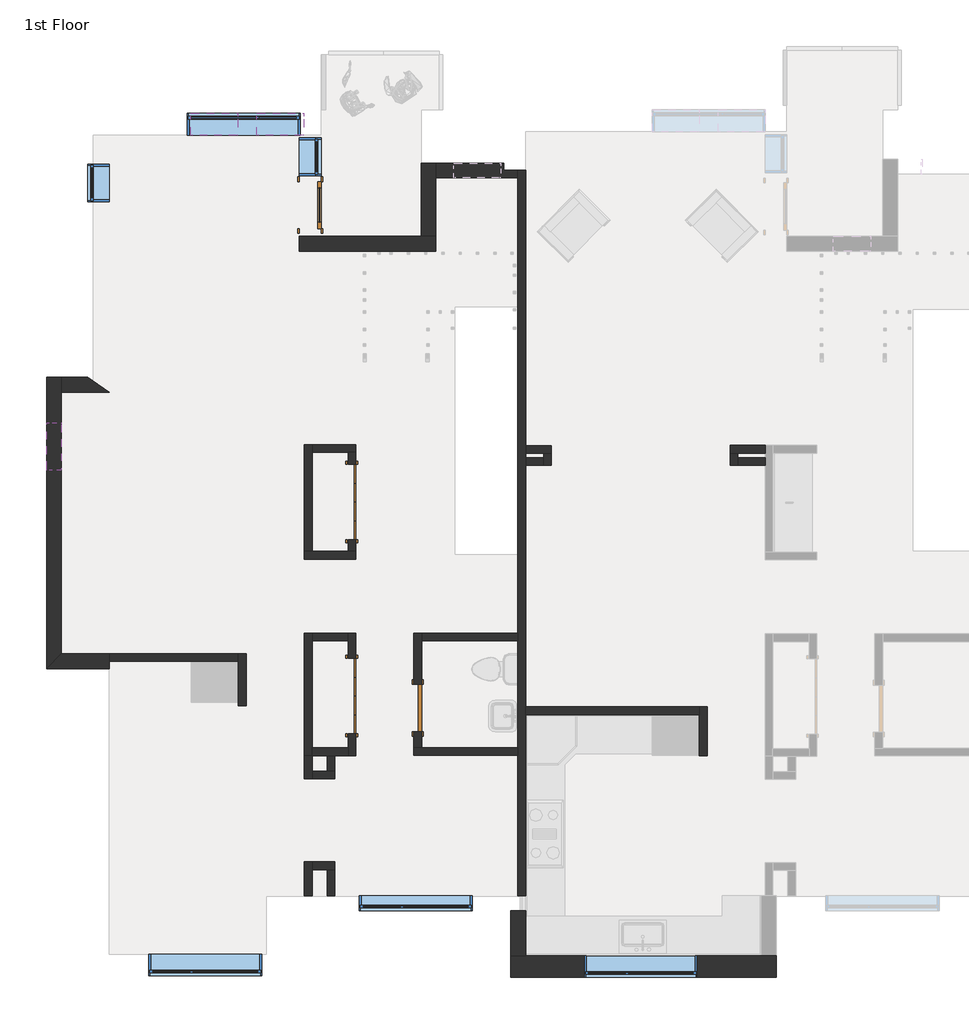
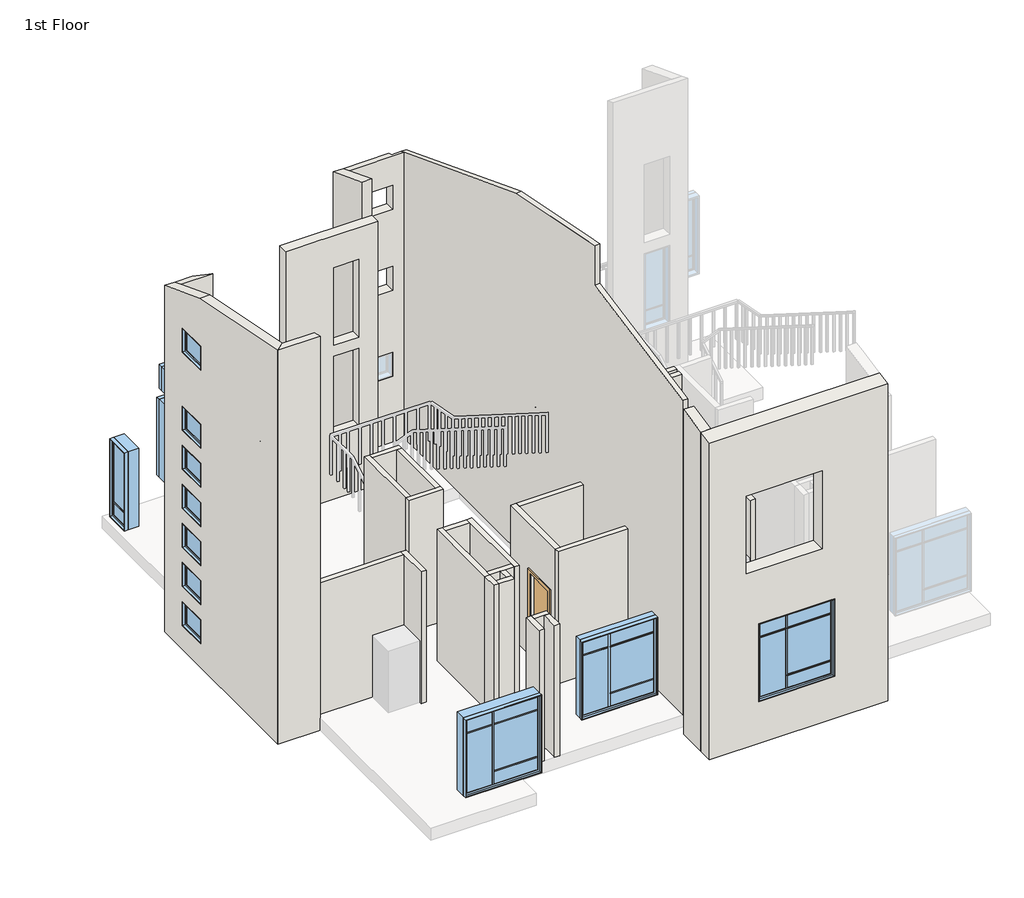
# One storey, part 1 of 2: 36 walls, 15 windows, 4 doors.
"""IFC4 building model written with IfcOpenShell, lengths in millimetres."""

from ifc_helpers import new_model, si_unit, frame, origin, origin_with_axes, place, context, project, spatial, polyline, outline, extrude, faceted_brep, transform, mapped, element, save
from components import bifold_4_panel_87549022, door_f8acb57e, door_45ea9bca, condo_apartment_window2_condo_apartment_window2_cbcd33dc, condo_apartment_window2_condo_apartment_window2_92945ac6, condo_apartment_window3_condo_apartment_window3_4697ba99, condo_apartment_window5_condo_apartment_window5_5cb7fe43, condo_apartment_window5_condo_apartment_window5_b48a20a4, condo_apartment_window5_condo_apartment_window5_0e9632d7

model = new_model("IFC4")

# Units and contexts
model_context = context("Model", 3, world=origin())
ifc_project = project(units=[si_unit("LENGTHUNIT", "METRE", prefix="MILLI")], contexts=[model_context])

# Site, building, storey
site = spatial("IfcSite", under=ifc_project)
building = spatial("IfcBuilding", under=site)
storey = spatial("IfcBuildingStorey", under=building, Name="1st Floor", Elevation=0.0)

# Doors
placement = place(None, origin())
bifold_4_panel_shape = bifold_4_panel_87549022(model_context)
element("IfcDoor", 1, ObjectType="Bifold - 4 panel : 48\" x  84\"", at=placement, inside=storey, context=model_context, shape_type="MappedRepresentation", body=[
    mapped(bifold_4_panel_shape, transform((-6531.6963845, 49598.199008, 0.0), x_axis=(0.0, -1.0, 0.0), y_axis=(1.0, 0.0, 0.0), z_axis=(0.0, 0.0, 1.0))),
])
element("IfcDoor", 2, ObjectType="Bifold - 4 panel : 48\" x  84\"", at=placement, inside=storey, context=model_context, shape_type="MappedRepresentation", body=[
    mapped(bifold_4_panel_shape, transform((-6531.6963845, 52734.518314, 0.0), x_axis=(0.0, -1.0, 0.0), y_axis=(1.0, 0.0, 0.0), z_axis=(0.0, 0.0, 1.0))),
])
door_shape = door_f8acb57e(model_context)
element("IfcDoor", 3, ObjectType="Single-Flush : 30\" x 84\"", at=placement, inside=storey, context=model_context, shape_type="MappedRepresentation", body=[
    mapped(door_shape, transform((-5470.1963845, 49403.349008, 0.0), x_axis=(0.0, -1.0, 0.0), y_axis=(1.0, 0.0, 0.0), z_axis=(0.0, 0.0, 1.0))),
])
door_2_shape = door_45ea9bca(model_context)
element("IfcDoor", 4, ObjectType="Single-Glass 1 : 30\" x 84\"", at=placement, inside=storey, context=model_context, shape_type="MappedRepresentation", body=[
    mapped(door_2_shape, transform((-7210.0497339, 57534.411508, 0.0), x_axis=(0.0, -1.0, 0.0), y_axis=(1.0, 0.0, 0.0), z_axis=(0.0, 0.0, 1.0))),
])

# Walls
element("IfcWall", 5, ObjectType="Exterior - Brick", at=placement, inside=storey, context=model_context, shape_type="Brep", body=[
    faceted_brep([(-3968.2372339, 45045.636508, -304.8), (327.0002661, 45045.636508, -304.8), (327.0002661, 45045.636508, 7755.5759818), (-3968.2372339, 45045.636508, 7755.5759818), (-3081.4236894, 45045.636508, 6096.0), (-1252.6236894, 45045.636508, 6096.0), (-1252.6236894, 45045.636508, 4114.8), (-3081.4236894, 45045.636508, 4114.8), (-2776.6236894, 45045.636508, 2743.2), (-947.8236894, 45045.636508, 2743.2), (-947.8236894, 45045.636508, 762.0), (-2776.6236894, 45045.636508, 762.0), (-3968.2372339, 45398.061508, -304.8), (-3968.2372339, 45398.061508, 7822.6464081), (-3726.9372339, 45398.061508, 7822.6464081), (85.7002661, 45398.061508, 7822.6464081), (327.0002661, 45398.061508, 7822.6464081), (327.0002661, 45398.061508, -304.8), (85.7002661, 45398.061508, -304.8), (-3726.9372339, 45398.061508, -304.8), (-3081.4236894, 45398.061508, 6096.0), (-3081.4236894, 45398.061508, 4114.8), (-1252.6236894, 45398.061508, 4114.8), (-1252.6236894, 45398.061508, 6096.0), (-2776.6236894, 45398.061508, 2743.2), (-2776.6236894, 45398.061508, 762.0), (-947.8236894, 45398.061508, 762.0), (-947.8236894, 45398.061508, 2743.2)], [[[0, 1, 2, 3], [4, 5, 6, 7], [8, 9, 10, 11]], [[12, 13, 14, 15, 16, 17, 18, 19], [20, 21, 22, 23], [24, 25, 26, 27]], [[1, 0, 12, 19, 18, 17]], [[0, 3, 13, 12]], [[2, 1, 17, 16]], [[3, 2, 16, 15, 14, 13]], [[21, 20, 4, 7]], [[22, 21, 7, 6]], [[23, 22, 6, 5]], [[20, 23, 5, 4]], [[25, 24, 8, 11]], [[26, 25, 11, 10]], [[27, 26, 10, 9]], [[24, 27, 9, 8]]]),
])
element("IfcWall", 6, ObjectType="Exterior - Stucco", at=placement, inside=storey, context=model_context, shape_type="Brep", body=[
    faceted_brep([(-11472.6122339, 54748.48762, -304.8), (-11472.6122339, 50037.586508, -304.8), (-11472.6122339, 50037.586508, 9713.3498366), (-11472.6122339, 53299.7913201, 9069.4446552), (-11472.6122339, 54748.48762, 8511.7370135), (-11472.6122339, 54011.099008, 914.4), (-11472.6122339, 53249.099008, 914.4), (-11472.6122339, 53249.099008, 304.8), (-11472.6122339, 54011.099008, 304.8), (-11472.6122339, 54011.099008, 1908.175), (-11472.6122339, 53249.099008, 1908.175), (-11472.6122339, 53249.099008, 1298.575), (-11472.6122339, 54011.099008, 1298.575), (-11472.6122339, 54011.099008, 2901.95), (-11472.6122339, 53249.099008, 2901.95), (-11472.6122339, 53249.099008, 2292.35), (-11472.6122339, 54011.099008, 2292.35), (-11472.6122339, 54011.099008, 3895.725), (-11472.6122339, 53249.099008, 3895.725), (-11472.6122339, 53249.099008, 3286.125), (-11472.6122339, 54011.099008, 3286.125), (-11472.6122339, 54011.099008, 4889.5), (-11472.6122339, 53249.099008, 4889.5), (-11472.6122339, 53249.099008, 4279.9), (-11472.6122339, 54011.099008, 4279.9), (-11472.6122339, 54011.099008, 5883.275), (-11472.6122339, 53249.099008, 5883.275), (-11472.6122339, 53249.099008, 5273.675), (-11472.6122339, 54011.099008, 5273.675), (-11472.6122339, 54011.099008, 7870.825), (-11472.6122339, 53249.099008, 7870.825), (-11472.6122339, 53249.099008, 7261.225), (-11472.6122339, 54011.099008, 7261.225), (-11231.3122339, 54748.48762, -304.8), (-11231.3122339, 54748.48762, 8511.7370135), (-11231.3122339, 54507.18762, 8604.6307787), (-11231.3122339, 53299.7913201, 9069.4446552), (-11231.3122339, 50278.886508, 9665.7212145), (-11231.3122339, 50278.886508, -304.8), (-11231.3122339, 54507.18762, -304.8), (-11231.3122339, 54011.099008, 914.4), (-11231.3122339, 54011.099008, 304.8), (-11231.3122339, 53249.099008, 304.8), (-11231.3122339, 53249.099008, 914.4), (-11231.3122339, 54011.099008, 1908.175), (-11231.3122339, 54011.099008, 1298.575), (-11231.3122339, 53249.099008, 1298.575), (-11231.3122339, 53249.099008, 1908.175), (-11231.3122339, 54011.099008, 2901.95), (-11231.3122339, 54011.099008, 2292.35), (-11231.3122339, 53249.099008, 2292.35), (-11231.3122339, 53249.099008, 2901.95), (-11231.3122339, 54011.099008, 3895.725), (-11231.3122339, 54011.099008, 3286.125), (-11231.3122339, 53249.099008, 3286.125), (-11231.3122339, 53249.099008, 3895.725), (-11231.3122339, 54011.099008, 4889.5), (-11231.3122339, 54011.099008, 4279.9), (-11231.3122339, 53249.099008, 4279.9), (-11231.3122339, 53249.099008, 4889.5), (-11231.3122339, 54011.099008, 5883.275), (-11231.3122339, 54011.099008, 5273.675), (-11231.3122339, 53249.099008, 5273.675), (-11231.3122339, 53249.099008, 5883.275), (-11231.3122339, 54011.099008, 7870.825), (-11231.3122339, 54011.099008, 7261.225), (-11231.3122339, 53249.099008, 7261.225), (-11231.3122339, 53249.099008, 7870.825)], [[[0, 1, 2, 3, 4], [5, 6, 7, 8], [9, 10, 11, 12], [13, 14, 15, 16], [17, 18, 19, 20], [21, 22, 23, 24], [25, 26, 27, 28], [29, 30, 31, 32]], [[33, 34, 35, 36, 37, 38, 39], [40, 41, 42, 43], [44, 45, 46, 47], [48, 49, 50, 51], [52, 53, 54, 55], [56, 57, 58, 59], [60, 61, 62, 63], [64, 65, 66, 67]], [[1, 0, 33, 39, 38]], [[0, 4, 34, 33]], [[2, 1, 38, 37]], [[4, 3, 36, 35, 34]], [[3, 2, 37, 36]], [[41, 40, 5, 8]], [[42, 41, 8, 7]], [[43, 42, 7, 6]], [[40, 43, 6, 5]], [[45, 44, 9, 12]], [[46, 45, 12, 11]], [[47, 46, 11, 10]], [[44, 47, 10, 9]], [[49, 48, 13, 16]], [[50, 49, 16, 15]], [[51, 50, 15, 14]], [[48, 51, 14, 13]], [[53, 52, 17, 20]], [[54, 53, 20, 19]], [[55, 54, 19, 18]], [[52, 55, 18, 17]], [[57, 56, 21, 24]], [[58, 57, 24, 23]], [[59, 58, 23, 22]], [[56, 59, 22, 21]], [[61, 60, 25, 28]], [[62, 61, 28, 27]], [[63, 62, 27, 26]], [[60, 63, 26, 25]], [[65, 64, 29, 32]], [[66, 65, 32, 31]], [[67, 66, 31, 30]], [[64, 67, 30, 29]]]),
])
element("IfcWall", 7, ObjectType="Exterior - Stucco", at=placement, inside=storey, context=model_context, shape_type="Brep", body=[
    faceted_brep([(-11231.3122339, 54507.18762, -304.8), (-10457.0497339, 54507.18762, -304.8), (-10457.0497339, 54507.18762, 8604.6307787), (-11231.3122339, 54507.18762, 8604.6307787), (-11231.3122339, 54748.48762, -304.8), (-11231.3122339, 54748.48762, 8511.7370135), (-10809.4747339, 54748.48762, 8511.7370135), (-10809.4747339, 54748.48762, -304.8)], [[[0, 1, 2, 3]], [[4, 5, 6, 7]], [[1, 0, 4, 7]], [[2, 1, 7, 6]], [[0, 3, 5, 4]], [[3, 2, 6, 5]]]),
])
element("IfcWall", 8, ObjectType="Exterior - Stucco", at=placement, inside=storey, context=model_context, shape_type="Brep", body=[
    faceted_brep([(-11472.6122339, 50037.586508, -304.8), (-10457.0497339, 50037.586508, -304.8), (-10457.0497339, 50037.586508, -28.575), (-10457.0497339, 50037.586508, 6705.6), (-10457.0497339, 50037.586508, 8705.6), (-10457.0497339, 50037.586508, 9713.3498366), (-11472.6122339, 50037.586508, 9713.3498366), (-11231.3122339, 50278.886508, -304.8), (-11231.3122339, 50278.886508, 9665.7212145), (-10457.0497339, 50278.886508, 9665.7212145), (-10457.0497339, 50278.886508, 6705.6), (-10457.0497339, 50278.886508, -304.8)], [[[0, 1, 2, 3, 4, 5, 6]], [[7, 8, 9, 10, 11]], [[1, 0, 7, 11]], [[5, 4, 3, 2, 1, 11, 10, 9]], [[0, 6, 8, 7]], [[6, 5, 9, 8]]]),
])
element("IfcWall", 9, ObjectType="Exterior - Stucco", at=placement, inside=storey, context=model_context, shape_type="Brep", body=[
    faceted_brep([(-7386.2622339, 56788.286508, 0.0), (-5175.7911158, 56788.286508, 0.0), (-5175.7911158, 56788.286508, 6705.6), (-6445.7894769, 56788.286508, 6705.6), (-6569.6144769, 56788.286508, 6705.6), (-7386.2622339, 56788.286508, 6705.6), (-5621.8786158, 56788.286508, 5892.8), (-5621.8786158, 56788.286508, 3911.6), (-6231.4786158, 56788.286508, 3911.6), (-6231.4786158, 56788.286508, 5892.8), (-5621.8786158, 56788.286508, 3632.2), (-5621.8786158, 56788.286508, 1651.0), (-6231.4786158, 56788.286508, 1651.0), (-6231.4786158, 56788.286508, 3632.2), (-5175.7911158, 57029.586508, 0.0), (-5417.0911158, 57029.586508, 0.0), (-7386.2622339, 57029.586508, 0.0), (-7386.2622339, 57029.586508, 6705.6), (-5175.7911158, 57029.586508, 6705.6), (-5621.8786158, 57029.586508, 3911.6), (-5621.8786158, 57029.586508, 5892.8), (-6231.4786158, 57029.586508, 5892.8), (-6231.4786158, 57029.586508, 3911.6), (-5621.8786158, 57029.586508, 1651.0), (-5621.8786158, 57029.586508, 3632.2), (-6231.4786158, 57029.586508, 3632.2), (-6231.4786158, 57029.586508, 1651.0)], [[[0, 1, 2, 3, 4, 5], [6, 7, 8, 9], [10, 11, 12, 13]], [[14, 15, 16, 17, 18], [19, 20, 21, 22], [23, 24, 25, 26]], [[1, 0, 16, 15, 14]], [[5, 4, 3, 2, 18, 17]], [[2, 1, 14, 18]], [[0, 5, 17, 16]], [[7, 6, 20, 19]], [[8, 7, 19, 22]], [[9, 8, 22, 21]], [[6, 9, 21, 20]], [[10, 24, 23, 11]], [[11, 23, 26, 12]], [[12, 26, 25, 13]], [[24, 10, 13, 25]]]),
])
element("IfcWall", 10, ObjectType="Exterior - Stucco", at=placement, inside=storey, context=model_context, shape_type="Brep", body=[
    faceted_brep([(-5175.7911158, 57029.586508, 0.0), (-5175.7911158, 57973.4989967, 0.0), (-5175.7911158, 58214.7989967, 0.0), (-5175.7911158, 58214.7989967, 7177.3038799), (-5175.7911158, 57973.4989967, 7270.1976451), (-5175.7911158, 57029.586508, 7633.5776082), (-5175.7911158, 57029.586508, 6705.6), (-5417.0911158, 57029.586508, 0.0), (-5417.0911158, 57029.586508, 7633.5776082), (-5417.0911158, 58214.7989967, 7177.3038799), (-5417.0911158, 58214.7989967, 0.0)], [[[0, 1, 2, 3, 4, 5, 6]], [[7, 8, 9, 10]], [[2, 1, 0, 7, 10]], [[3, 2, 10, 9]], [[0, 6, 5, 8, 7]], [[5, 4, 3, 9, 8]]]),
])
element("IfcWall", 11, ObjectType="Exterior - Stucco", at=placement, inside=storey, context=model_context, shape_type="Brep", body=[
    faceted_brep([(-5175.7911158, 57973.4989967, 0.0), (-3850.7622339, 57973.4989967, 0.0), (-3850.7622339, 57973.4989967, 7270.1976451), (-5175.7911158, 57973.4989967, 7270.1976451), (-4125.3997339, 57973.4989967, 2286.0), (-4125.3997339, 57973.4989967, 1676.4), (-4887.3997339, 57973.4989967, 1676.4), (-4887.3997339, 57973.4989967, 2286.0), (-4125.3997339, 57973.4989967, 4470.4), (-4125.3997339, 57973.4989967, 3860.8), (-4887.3997339, 57973.4989967, 3860.8), (-4887.3997339, 57973.4989967, 4470.4), (-4125.3997339, 57973.4989967, 6527.8), (-4125.3997339, 57973.4989967, 5918.2), (-4887.3997339, 57973.4989967, 5918.2), (-4887.3997339, 57973.4989967, 6527.8), (-4079.3622339, 58214.7989967, 0.0), (-5175.7911158, 58214.7989967, 0.0), (-5175.7911158, 58214.7989967, 7177.3038799), (-4079.3622339, 58214.7989967, 7177.3038799), (-4125.3997339, 58214.7989967, 1676.4), (-4125.3997339, 58214.7989967, 2286.0), (-4887.3997339, 58214.7989967, 2286.0), (-4887.3997339, 58214.7989967, 1676.4), (-4125.3997339, 58214.7989967, 3860.8), (-4125.3997339, 58214.7989967, 4470.4), (-4887.3997339, 58214.7989967, 4470.4), (-4887.3997339, 58214.7989967, 3860.8), (-4125.3997339, 58214.7989967, 5918.2), (-4125.3997339, 58214.7989967, 6527.8), (-4887.3997339, 58214.7989967, 6527.8), (-4887.3997339, 58214.7989967, 5918.2), (-4079.3622339, 58094.1489967, 0.0), (-3850.7622339, 58094.1489967, 0.0), (-3850.7622339, 58094.1489967, 7223.7507625), (-4079.3622339, 58094.1489967, 7223.7507625)], [[[0, 1, 2, 3], [4, 5, 6, 7], [8, 9, 10, 11], [12, 13, 14, 15]], [[16, 17, 18, 19], [20, 21, 22, 23], [24, 25, 26, 27], [28, 29, 30, 31]], [[1, 0, 17, 16, 32, 33]], [[0, 3, 18, 17]], [[2, 1, 33, 34]], [[33, 32, 35, 34]], [[16, 19, 35, 32]], [[3, 2, 34, 35, 19, 18]], [[5, 4, 21, 20]], [[6, 5, 20, 23]], [[7, 6, 23, 22]], [[4, 7, 22, 21]], [[9, 8, 25, 24]], [[10, 9, 24, 27]], [[11, 10, 27, 26]], [[8, 11, 26, 25]], [[12, 29, 28, 13]], [[13, 28, 31, 14]], [[14, 31, 30, 15]], [[29, 12, 15, 30]]]),
])
element("IfcWall", 12, ObjectType="Exterior - Stucco", at=placement, inside=storey, context=model_context, shape_type="SweptSolid", body=[
    extrude(outline(polyline([(46121.2755538, 7960.2821444), (46121.2755538, -304.8), (45398.061508, -304.8), (45398.061508, 7822.6464081), (46121.2755538, 7960.2821444)])), frame((-3968.2372339, 0.0, 0.0), z_axis=(1.0, 0.0, 0.0), x_axis=(0.0, 1.0, 0.0)), (0.0, 0.0, 1.0), 241.3),
])
element("IfcWall", 13, ObjectType="Interior - 4 7/8\" Partition (1-hr)", at=placement, inside=storey, context=model_context, shape_type="SweptSolid", body=[
    extrude(outline(polyline([(-915.6644769, 49296.061508), (-3726.9372339, 49296.061508), (-3726.9372339, 49419.886508), (-915.6644769, 49419.886508), (-915.6644769, 49296.061508)])), origin_with_axes(), (0.0, 0.0, 1.0), 3048.0),
])
element("IfcWall", 14, ObjectType="Interior - 4 7/8\" Partition (1-hr)", at=placement, inside=storey, context=model_context, shape_type="Brep", body=[
    faceted_brep([(-915.6644769, 49419.886508, 0.0), (-915.6644769, 49296.061508, 0.0), (-915.6644769, 48630.174008, 0.0), (-915.6644769, 48630.174008, 3048.0), (-915.6644769, 49296.061508, 3048.0), (-915.6644769, 49419.886508, 3048.0), (-791.8394769, 49419.886508, 0.0), (-791.8394769, 49419.886508, 3048.0), (-791.8394769, 48630.174008, 3048.0), (-791.8394769, 48630.174008, 0.0)], [[[0, 1, 2, 3, 4, 5]], [[6, 7, 8, 9]], [[2, 1, 0, 6, 9]], [[3, 2, 9, 8]], [[0, 5, 7, 6]], [[5, 4, 3, 8, 7]]]),
])
element("IfcWall", 15, ObjectType="Interior - 4 7/8\" Partition (1-hr)", at=placement, inside=storey, context=model_context, shape_type="Brep", body=[
    faceted_brep([(-3726.9372339, 53522.2197195, 0.0), (-3432.8359639, 53522.222746, 0.0), (-3309.0109639, 53522.2240202, 0.0), (-3309.0109639, 53522.2240202, 3048.0), (-3432.8359639, 53522.222746, 3048.0), (-3726.9372339, 53522.2197195, 3048.0), (-3726.9372339, 53646.0447195, 0.0), (-3726.9372339, 53646.0447195, 3048.0), (-3309.0122381, 53646.0490202, 3048.0), (-3309.0122381, 53646.0490202, 0.0)], [[[0, 1, 2, 3, 4, 5]], [[6, 7, 8, 9]], [[2, 1, 0, 6, 9]], [[3, 2, 9, 8]], [[0, 5, 7, 6]], [[5, 4, 3, 8, 7]]]),
])
element("IfcWall", 16, ObjectType="Interior - 4 7/8\" Partition (1-hr)", at=placement, inside=storey, context=model_context, shape_type="Brep", body=[
    faceted_brep([(-3432.8359639, 53522.222746, 0.0), (-3432.835213, 53449.25012, 0.0), (-3432.8339387, 53325.42512, 0.0), (-3432.8339387, 53325.42512, 3048.0), (-3432.835213, 53449.25012, 3048.0), (-3432.8359639, 53522.222746, 3048.0), (-3309.0109639, 53522.2240202, 0.0), (-3309.0109639, 53522.2240202, 3048.0), (-3309.0089387, 53325.42512, 3048.0), (-3309.0089387, 53325.42512, 0.0)], [[[0, 1, 2, 3, 4, 5]], [[6, 7, 8, 9]], [[2, 1, 0, 6, 9]], [[3, 2, 9, 8]], [[0, 5, 7, 6]], [[5, 4, 3, 8, 7]]]),
])
element("IfcWall", 17, ObjectType="Interior - 4 7/8\" Partition (1-hr)", at=placement, inside=storey, context=model_context, shape_type="SweptSolid", body=[
    extrude(outline(polyline([(-3726.9372339, 53449.25012), (-3432.835213, 53449.25012), (-3432.8339387, 53325.42512), (-3726.9372339, 53325.42512), (-3726.9372339, 53449.25012)])), origin_with_axes(), (0.0, 0.0, 1.0), 3048.0),
])
element("IfcWall", 18, ObjectType="Interior - 4 7/8\" Partition (1-hr)", at=placement, inside=storey, context=model_context, shape_type="Brep", body=[
    faceted_brep([(149.9627661, 53649.25012, 0.0), (-416.3622339, 53649.25012, 0.0), (-416.3622339, 53649.25012, 3048.0), (149.9627661, 53649.25012, 3048.0), (149.9627661, 53525.42512, 0.0), (149.9627661, 53525.42512, 3048.0), (-292.5372339, 53525.42512, 3048.0), (-416.3622339, 53525.42512, 3048.0), (-416.3622339, 53525.42512, 0.0), (-292.5372339, 53525.42512, 0.0)], [[[0, 1, 2, 3]], [[4, 5, 6, 7, 8, 9]], [[1, 0, 4, 9, 8]], [[2, 1, 8, 7]], [[0, 3, 5, 4]], [[3, 2, 7, 6, 5]]]),
])
element("IfcWall", 19, ObjectType="Interior - 4 7/8\" Partition (1-hr)", at=placement, inside=storey, context=model_context, shape_type="Brep", body=[
    faceted_brep([(-416.3622339, 53525.42512, 0.0), (-416.3622339, 53325.42512, 0.0), (-416.3622339, 53325.42512, 3048.0), (-416.3622339, 53525.42512, 3048.0), (-292.5372339, 53525.42512, 0.0), (-292.5372339, 53525.42512, 3048.0), (-292.5372339, 53449.25012, 3048.0), (-292.5372339, 53325.42512, 3048.0), (-292.5372339, 53325.42512, 0.0), (-292.5372339, 53449.25012, 0.0)], [[[0, 1, 2, 3]], [[4, 5, 6, 7, 8, 9]], [[1, 0, 4, 9, 8]], [[2, 1, 8, 7]], [[0, 3, 5, 4]], [[3, 2, 7, 6, 5]]]),
])
element("IfcWall", 20, ObjectType="Interior - 4 7/8\" Partition (1-hr)", at=placement, inside=storey, context=model_context, shape_type="SweptSolid", body=[
    extrude(outline(polyline([(149.9627661, 53325.42512), (-292.5372339, 53325.42512), (-292.5372339, 53449.25012), (149.9627661, 53449.25012), (149.9627661, 53325.42512)])), origin_with_axes(), (0.0, 0.0, 1.0), 3048.0),
])
element("IfcWall", 21, ObjectType="Interior - 4 7/8\" Partition (1-hr)", at=placement, inside=storey, context=model_context, shape_type="Brep", body=[
    faceted_brep([(-3850.7622339, 48763.586508, 0.0), (-5408.2838845, 48763.586508, 0.0), (-5532.1088845, 48763.586508, 0.0), (-5532.1088845, 48763.586508, 3352.8), (-5408.2838845, 48763.586508, 3352.8), (-3850.7622339, 48763.586508, 3352.8), (-3850.7622339, 48639.761508, 0.0), (-3850.7622339, 48639.761508, 3352.8), (-5532.1088845, 48639.761508, 3352.8), (-5532.1088845, 48639.761508, 0.0)], [[[0, 1, 2, 3, 4, 5]], [[6, 7, 8, 9]], [[2, 1, 0, 6, 9]], [[5, 4, 3, 8, 7]], [[3, 2, 9, 8]], [[0, 5, 7, 6]]]),
])
element("IfcWall", 22, ObjectType="Interior - 4 7/8\" Partition (1-hr)", at=placement, inside=storey, context=model_context, shape_type="Brep", body=[
    faceted_brep([(-5408.2838845, 48763.586508, 0.0), (-5408.2838845, 49022.349008, 0.0), (-5408.2838845, 49022.349008, 2133.6), (-5408.2838845, 49784.349008, 2133.6), (-5408.2838845, 49784.349008, 0.0), (-5408.2838845, 50486.786508, 0.0), (-5408.2838845, 50610.611508, 0.0), (-5408.2838845, 50610.611508, 3352.8), (-5408.2838845, 50486.786508, 3352.8), (-5408.2838845, 48763.586508, 3352.8), (-5532.1088845, 49022.349008, 2133.6), (-5532.1088845, 49022.349008, 0.0), (-5532.1088845, 48763.586508, 0.0), (-5532.1088845, 48763.586508, 3352.8), (-5532.1088845, 50610.611508, 3352.8), (-5532.1088845, 50610.611508, 0.0), (-5532.1088845, 49784.349008, 0.0), (-5532.1088845, 49784.349008, 2133.6)], [[[0, 1, 2, 3, 4, 5, 6, 7, 8, 9]], [[10, 11, 12, 13, 14, 15, 16, 17]], [[12, 11, 1, 0]], [[16, 15, 6, 5, 4]], [[9, 8, 7, 14, 13]], [[7, 6, 15, 14]], [[0, 9, 13, 12]], [[2, 1, 11, 10]], [[3, 2, 10, 17]], [[4, 3, 17, 16]]]),
])
element("IfcWall", 23, ObjectType="Interior - 4 7/8\" Partition (1-hr)", at=placement, inside=storey, context=model_context, shape_type="SweptSolid", body=[
    extrude(outline(polyline([(-3850.7622339, 50486.786508), (-5408.2838845, 50486.786508), (-5408.2838845, 50610.611508), (-3850.7622339, 50610.611508), (-3850.7622339, 50486.786508)])), origin_with_axes(), (0.0, 0.0, 1.0), 3352.8),
])
element("IfcWall", 24, ObjectType="Interior - 4 7/8\" Partition (1-hr)", at=placement, inside=storey, context=model_context, shape_type="Brep", body=[
    faceted_brep([(-6469.7838845, 51933.611508, 0.0), (-6593.6088845, 51933.611508, 0.0), (-7179.4566415, 51933.611508, 0.0), (-7303.2816415, 51933.611508, 0.0), (-7303.2816415, 51933.611508, 3352.8), (-7179.4566415, 51933.611508, 3352.8), (-6593.6088845, 51933.611508, 3352.8), (-6469.7838845, 51933.611508, 3352.8), (-6469.7838845, 51809.786508, 0.0), (-6469.7838845, 51809.786508, 3352.8), (-7303.2816415, 51809.786508, 3352.8), (-7303.2816415, 51809.786508, 0.0)], [[[0, 1, 2, 3, 4, 5, 6, 7]], [[8, 9, 10, 11]], [[3, 2, 1, 0, 8, 11]], [[7, 6, 5, 4, 10, 9]], [[4, 3, 11, 10]], [[0, 7, 9, 8]]]),
])
element("IfcWall", 25, ObjectType="Interior - 4 7/8\" Partition (1-hr)", at=placement, inside=storey, context=model_context, shape_type="Brep", body=[
    faceted_brep([(-7179.4566415, 51933.611508, 0.0), (-7179.4566415, 53535.42512, 0.0), (-7179.4566415, 53659.25012, 0.0), (-7179.4566415, 53659.25012, 3352.8), (-7179.4566415, 53535.42512, 3352.8), (-7179.4566415, 51933.611508, 3352.8), (-7303.2816415, 51933.611508, 0.0), (-7303.2816415, 51933.611508, 3352.8), (-7303.2816415, 53659.25012, 3352.8), (-7303.2816415, 53659.25012, 0.0)], [[[0, 1, 2, 3, 4, 5]], [[6, 7, 8, 9]], [[2, 1, 0, 6, 9]], [[5, 4, 3, 8, 7]], [[3, 2, 9, 8]], [[0, 5, 7, 6]]]),
])
element("IfcWall", 26, ObjectType="Interior - 4 7/8\" Partition (1-hr)", at=placement, inside=storey, context=model_context, shape_type="Brep", body=[
    faceted_brep([(-7179.4566415, 53535.42512, 0.0), (-6593.6088845, 53535.42512, 0.0), (-6469.7838845, 53535.42512, 0.0), (-6469.7838845, 53535.42512, 3352.8), (-6593.6088845, 53535.42512, 3352.8), (-7179.4566415, 53535.42512, 3352.8), (-7179.4566415, 53659.25012, 0.0), (-7179.4566415, 53659.25012, 3352.8), (-6469.7838845, 53659.25012, 3352.8), (-6469.7838845, 53659.25012, 0.0)], [[[0, 1, 2, 3, 4, 5]], [[6, 7, 8, 9]], [[2, 1, 0, 6, 9]], [[5, 4, 3, 8, 7]], [[3, 2, 9, 8]], [[0, 5, 7, 6]]]),
])
element("IfcWall", 27, ObjectType="Interior - 4 7/8\" Partition (1-hr)", at=placement, inside=storey, context=model_context, shape_type="Brep", body=[
    faceted_brep([(-10457.0497339, 50155.061508, 0.0), (-8368.9088845, 50155.061508, 0.0), (-8368.9088845, 50155.061508, 3352.8), (-9294.5622339, 50155.061508, 3352.8), (-10056.5622339, 50155.061508, 3352.8), (-10457.0497339, 50155.061508, 3352.8), (-10457.0497339, 50278.886508, 0.0), (-10457.0497339, 50278.886508, 3352.8), (-10056.5622339, 50278.886508, 3352.8), (-9294.5622339, 50278.886508, 3352.8), (-8368.9088845, 50278.886508, 3352.8), (-8368.9088845, 50278.886508, 0.0)], [[[0, 1, 2, 3, 4, 5]], [[6, 7, 8, 9, 10, 11]], [[1, 0, 6, 11]], [[5, 4, 3, 2, 10, 9, 8, 7]], [[2, 1, 11, 10]], [[0, 5, 7, 6]]]),
])
element("IfcWall", 28, ObjectType="Interior - 4 7/8\" Partition (1-hr)", at=placement, inside=storey, context=model_context, shape_type="Brep", body=[
    faceted_brep([(-6593.6088845, 48988.599008, 2133.6), (-6593.6088845, 48988.599008, 0.0), (-6593.6088845, 48757.349008, 0.0), (-6593.6088845, 48633.524008, 0.0), (-6593.6088845, 48633.524008, 3352.8), (-6593.6088845, 48757.349008, 3352.8), (-6593.6088845, 50486.786508, 3352.8), (-6593.6088845, 50610.611508, 3352.8), (-6593.6088845, 50610.611508, 0.0), (-6593.6088845, 50486.786508, 0.0), (-6593.6088845, 50207.799008, 0.0), (-6593.6088845, 50207.799008, 2133.6), (-6469.7838845, 48633.524008, 0.0), (-6469.7838845, 48988.599008, 0.0), (-6469.7838845, 48988.599008, 2133.6), (-6469.7838845, 50207.799008, 2133.6), (-6469.7838845, 50207.799008, 0.0), (-6469.7838845, 50610.611508, 0.0), (-6469.7838845, 50610.611508, 3352.8), (-6469.7838845, 48633.524008, 3352.8)], [[[0, 1, 2, 3, 4, 5, 6, 7, 8, 9, 10, 11]], [[12, 13, 14, 15, 16, 17, 18, 19]], [[3, 2, 1, 13, 12]], [[10, 9, 8, 17, 16]], [[7, 6, 5, 4, 19, 18]], [[8, 7, 18, 17]], [[4, 3, 12, 19]], [[14, 13, 1, 0]], [[15, 14, 0, 11]], [[16, 15, 11, 10]]]),
])
element("IfcWall", 29, ObjectType="Interior - 4 7/8\" Partition (1-hr)", at=placement, inside=storey, context=model_context, shape_type="Brep", body=[
    faceted_brep([(-7303.2816415, 50610.611508, 0.0), (-7303.2816415, 48633.524008, 0.0), (-7303.2816415, 48633.524008, 3352.8), (-7303.2816415, 50610.611508, 3352.8), (-7179.4566415, 50610.611508, 0.0), (-7179.4566415, 50610.611508, 3352.8), (-7179.4566415, 50486.786508, 3352.8), (-7179.4566415, 48757.349008, 3352.8), (-7179.4566415, 48633.524008, 3352.8), (-7179.4566415, 48633.524008, 0.0), (-7179.4566415, 48757.349008, 0.0), (-7179.4566415, 50486.786508, 0.0)], [[[0, 1, 2, 3]], [[4, 5, 6, 7, 8, 9, 10, 11]], [[1, 0, 4, 11, 10, 9]], [[3, 2, 8, 7, 6, 5]], [[0, 3, 5, 4]], [[2, 1, 9, 8]]]),
])
element("IfcWall", 30, ObjectType="Interior - 4 7/8\" Partition (1-hr)", at=placement, inside=storey, context=model_context, shape_type="Brep", body=[
    faceted_brep([(-8368.9088845, 50278.886508, 0.0), (-8368.9088845, 50155.061508, 0.0), (-8368.9088845, 49439.511508, 0.0), (-8368.9088845, 49439.511508, 3352.8), (-8368.9088845, 50155.061508, 3352.8), (-8368.9088845, 50278.886508, 3352.8), (-8245.0838845, 50278.886508, 0.0), (-8245.0838845, 50278.886508, 3352.8), (-8245.0838845, 49439.511508, 3352.8), (-8245.0838845, 49439.511508, 0.0)], [[[0, 1, 2, 3, 4, 5]], [[6, 7, 8, 9]], [[2, 1, 0, 6, 9]], [[3, 2, 9, 8]], [[5, 4, 3, 8, 7]], [[0, 5, 7, 6]]]),
])
element("IfcWall", 31, ObjectType="Interior - 4 7/8\" Partition (1-hr)", at=placement, inside=storey, context=model_context, shape_type="SweptSolid", body=[
    extrude(outline(polyline([(-6593.6088845, 50486.786508), (-7179.4566415, 50486.786508), (-7179.4566415, 50610.611508), (-6593.6088845, 50610.611508), (-6593.6088845, 50486.786508)])), origin_with_axes(), (0.0, 0.0, 1.0), 3352.8),
])
element("IfcWall", 32, ObjectType="Interior - 4 7/8\" Partition (1-hr)", at=placement, inside=storey, context=model_context, shape_type="SweptSolid", body=[
    extrude(outline(polyline([(-6593.6088845, 48633.524008), (-7179.4566415, 48633.524008), (-7179.4566415, 48757.349008), (-6593.6088845, 48757.349008), (-6593.6088845, 48633.524008)])), origin_with_axes(), (0.0, 0.0, 1.0), 3352.8),
])
element("IfcWall", 33, ObjectType="Interior - 4 7/8\" Partition (1-hr)", at=placement, inside=storey, context=model_context, shape_type="Brep", body=[
    faceted_brep([(-7303.2816415, 48633.524008, 0.0), (-7303.2816415, 48257.699008, 0.0), (-7303.2816415, 48257.699008, 3352.8), (-7303.2816415, 48633.524008, 3352.8), (-7179.4566415, 48633.524008, 0.0), (-7179.4566415, 48633.524008, 3352.8), (-7179.4566415, 48381.524008, 3352.8), (-7179.4566415, 48257.699008, 3352.8), (-7179.4566415, 48257.699008, 0.0), (-7179.4566415, 48381.524008, 0.0)], [[[0, 1, 2, 3]], [[4, 5, 6, 7, 8, 9]], [[1, 0, 4, 9, 8]], [[3, 2, 7, 6, 5]], [[2, 1, 8, 7]], [[0, 3, 5, 4]]]),
])
element("IfcWall", 34, ObjectType="Interior - 4 7/8\" Partition (1-hr)", at=placement, inside=storey, context=model_context, shape_type="Brep", body=[
    faceted_brep([(-7179.4566415, 48257.699008, 0.0), (-6813.1566415, 48257.699008, 0.0), (-6813.1566415, 48257.699008, 3352.8), (-7179.4566415, 48257.699008, 3352.8), (-7179.4566415, 48381.524008, 0.0), (-7179.4566415, 48381.524008, 3352.8), (-6936.9816415, 48381.524008, 3352.8), (-6813.1566415, 48381.524008, 3352.8), (-6813.1566415, 48381.524008, 0.0), (-6936.9816415, 48381.524008, 0.0)], [[[0, 1, 2, 3]], [[4, 5, 6, 7, 8, 9]], [[1, 0, 4, 9, 8]], [[3, 2, 7, 6, 5]], [[2, 1, 8, 7]], [[0, 3, 5, 4]]]),
])
element("IfcWall", 35, ObjectType="Interior - 4 7/8\" Partition (1-hr)", at=placement, inside=storey, context=model_context, shape_type="SweptSolid", body=[
    extrude(outline(polyline([(-6813.1566415, 48633.524008), (-6813.1566415, 48381.524008), (-6936.9816415, 48381.524008), (-6936.9816415, 48633.524008), (-6813.1566415, 48633.524008)])), origin_with_axes(), (0.0, 0.0, 1.0), 3352.8),
])
element("IfcWall", 36, ObjectType="Interior - 4 7/8\" Partition (1-hr)", at=placement, inside=storey, context=model_context, shape_type="Brep", body=[
    faceted_brep([(-7179.5833519, 46362.5755538, 0.0), (-7179.5833519, 46788.474008, 0.0), (-7179.5833519, 46912.299008, 0.0), (-7179.5833519, 46912.299008, 3352.8), (-7179.5833519, 46788.474008, 3352.8), (-7179.5833519, 46362.5755538, 3352.8), (-7303.4083519, 46362.5755538, 0.0), (-7303.4083519, 46362.5755538, 3352.8), (-7303.4083519, 46912.299008, 3352.8), (-7303.4083519, 46912.299008, 0.0)], [[[0, 1, 2, 3, 4, 5]], [[6, 7, 8, 9]], [[2, 1, 0, 6, 9]], [[5, 4, 3, 8, 7]], [[3, 2, 9, 8]], [[0, 5, 7, 6]]]),
])
element("IfcWall", 37, ObjectType="Interior - 4 7/8\" Partition (1-hr)", at=placement, inside=storey, context=model_context, shape_type="Brep", body=[
    faceted_brep([(-7179.5833519, 46788.474008, 0.0), (-6936.9816415, 46788.474008, 0.0), (-6813.1566415, 46788.474008, 0.0), (-6813.1566415, 46788.474008, 3352.8), (-6936.9816415, 46788.474008, 3352.8), (-7179.5833519, 46788.474008, 3352.8), (-7179.5833519, 46912.299008, 0.0), (-7179.5833519, 46912.299008, 3352.8), (-6813.1566415, 46912.299008, 3352.8), (-6813.1566415, 46912.299008, 0.0)], [[[0, 1, 2, 3, 4, 5]], [[6, 7, 8, 9]], [[2, 1, 0, 6, 9]], [[5, 4, 3, 8, 7]], [[3, 2, 9, 8]], [[0, 5, 7, 6]]]),
])
element("IfcWall", 38, ObjectType="Interior - 4 7/8\" Partition (1-hr)", at=placement, inside=storey, context=model_context, shape_type="SweptSolid", body=[
    extrude(outline(polyline([(-6936.9816415, 46362.5755538), (-6936.9816415, 46788.474008), (-6813.1566415, 46788.474008), (-6813.1566415, 46362.5755538), (-6936.9816415, 46362.5755538)])), origin_with_axes(), (0.0, 0.0, 1.0), 3352.8),
])
element("IfcWall", 39, ObjectType="Interior - 4 7/8\" Partition (1-hr)", at=placement, inside=storey, context=model_context, shape_type="SweptSolid", body=[
    extrude(outline(polyline([(52124.918314, 2133.6), (52124.918314, 0.0), (51933.611508, 0.0), (51933.611508, 3352.8), (53535.42512, 3352.8), (53535.42512, 0.0), (53344.118314, 0.0), (53344.118314, 2133.6), (52124.918314, 2133.6)])), frame((-6593.6088845, 0.0, 0.0), z_axis=(1.0, 0.0, 0.0), x_axis=(0.0, 1.0, 0.0)), (0.0, 0.0, 1.0), 123.825),
])
element("IfcWall", 40, ObjectType="Interior - 4 7/8\" Partition (1-hr)", at=placement, inside=storey, context=model_context, shape_type="Brep", body=[
    faceted_brep([(-3850.7622339, 58094.1489967, 0.0), (-3850.7622339, 57973.4989967, 0.0), (-3850.7622339, 46362.5755538, 0.0), (-3850.7622339, 46362.5755538, 8006.2042381), (-3850.7622339, 50037.586508, 8705.6), (-3850.7622339, 50037.586508, 9713.3498366), (-3850.7622339, 50278.886508, 9665.7212145), (-3850.7622339, 53299.7913201, 9069.4446552), (-3850.7622339, 57973.4989967, 7270.1976451), (-3850.7622339, 58094.1489967, 7223.7507625), (-3726.9372339, 58094.1489967, 0.0), (-3726.9372339, 58094.1489967, 7223.7507625), (-3726.9372339, 53299.7913201, 9069.4446552), (-3726.9372339, 50278.886508, 9665.7212145), (-3726.9372339, 50037.586508, 9713.3498366), (-3726.9372339, 50037.586508, 8705.6), (-3726.9372339, 46362.5755538, 8006.2042381), (-3726.9372339, 46362.5755538, 0.0), (-3726.9372339, 57973.4989967, 0.0)], [[[0, 1, 2, 3, 4, 5, 6, 7, 8, 9]], [[10, 11, 12, 13, 14, 15, 16, 17, 18]], [[2, 1, 0, 10, 18, 17]], [[0, 9, 11, 10]], [[3, 2, 17, 16]], [[14, 5, 4, 15]], [[4, 3, 16, 15]], [[9, 8, 7, 12, 11]], [[7, 6, 5, 14, 13, 12]]]),
])

# Windows
condo_apartment_window2_condo_apartment_window2_shape = condo_apartment_window2_condo_apartment_window2_cbcd33dc(model_context)
element("IfcWindow", 41, ObjectType="Condo - Apartment Window2 : Condo - Apartment Window2", at=placement, inside=storey, context=model_context, shape_type="MappedRepresentation", body=[
    mapped(condo_apartment_window2_condo_apartment_window2_shape, transform((-8246.7622339, 58842.136508, -292.1), x_axis=(1.0, 0.0, 0.0), y_axis=(0.0, 1.0, 0.0), z_axis=(0.0, 0.0, 1.0))),
])
condo_apartment_window2_condo_apartment_window2_2_shape = condo_apartment_window2_condo_apartment_window2_92945ac6(model_context)
element("IfcWindow", 42, ObjectType="Condo - Apartment Window2 : Condo - Apartment Window2", at=placement, inside=storey, context=model_context, shape_type="MappedRepresentation", body=[
    mapped(condo_apartment_window2_condo_apartment_window2_2_shape, transform((-5541.5691415, 46241.9255538, 317.5), x_axis=(-1.0, 0.0, 0.0), y_axis=(0.0, -1.0, 0.0), z_axis=(0.0, 0.0, 1.0))),
])
element("IfcWindow", 43, ObjectType="Condo - Apartment Window2 : Condo - Apartment Window2", at=placement, inside=storey, context=model_context, shape_type="MappedRepresentation", body=[
    mapped(condo_apartment_window2_condo_apartment_window2_shape, transform((-8945.8344377, 45246.099008, 165.1), x_axis=(-1.0, 0.0, 0.0), y_axis=(0.0, -1.0, 0.0), z_axis=(0.0, 0.0, 1.0))),
])
element("IfcWindow", 44, ObjectType="Condo - Apartment Window2 : Condo - Apartment Window2", at=placement, inside=storey, context=model_context, shape_type="MappedRepresentation", body=[
    mapped(condo_apartment_window2_condo_apartment_window2_shape, transform((-1900.3236894, 45221.849008, 165.1), x_axis=(-1.0, 0.0, 0.0), y_axis=(0.0, -1.0, 0.0), z_axis=(0.0, 0.0, 1.0))),
])
condo_apartment_window3_condo_apartment_window3_shape = condo_apartment_window3_condo_apartment_window3_4697ba99(model_context)
element("IfcWindow", 45, ObjectType="Condo - Apartment Window3 : Condo - Apartment Window3", at=placement, inside=storey, context=model_context, shape_type="MappedRepresentation", body=[
    mapped(condo_apartment_window3_condo_apartment_window3_shape, transform((-10633.2622339, 57931.286508, 12.7), x_axis=(0.0, 1.0, 0.0), y_axis=(-1.0, 0.0, 0.0), z_axis=(0.0, 0.0, 1.0))),
])
element("IfcWindow", 46, ObjectType="Condo - Apartment Window3 : Condo - Apartment Window3", at=placement, inside=storey, context=model_context, shape_type="MappedRepresentation", body=[
    mapped(condo_apartment_window3_condo_apartment_window3_shape, transform((-7210.0497339, 58277.361508, 622.3), x_axis=(0.0, -1.0, 0.0), y_axis=(1.0, 0.0, 0.0), z_axis=(0.0, 0.0, 1.0))),
])
condo_apartment_window5_condo_apartment_window5_shape = condo_apartment_window5_condo_apartment_window5_5cb7fe43(model_context)
element("IfcWindow", 47, ObjectType="Condo - Apartment Window5 : Condo - Apartment Window5", at=placement, inside=storey, context=model_context, shape_type="MappedRepresentation", body=[
    mapped(condo_apartment_window5_condo_apartment_window5_shape, transform((-7653.9997339, 58842.136508, 977.9), x_axis=(1.0, 0.0, 0.0), y_axis=(0.0, 1.0, 0.0), z_axis=(0.0, 0.0, 1.0))),
])
condo_apartment_window5_condo_apartment_window5_2_shape = condo_apartment_window5_condo_apartment_window5_b48a20a4(model_context)
element("IfcWindow", 48, ObjectType="Condo - Apartment Window5 : Condo - Apartment Window5", at=placement, inside=storey, context=model_context, shape_type="MappedRepresentation", body=[
    mapped(condo_apartment_window5_condo_apartment_window5_2_shape, transform((-11351.9622339, 53668.199008, -1206.5), x_axis=(0.0, 1.0, 0.0), y_axis=(-1.0, 0.0, 0.0), z_axis=(0.0, 0.0, 1.0))),
])
element("IfcWindow", 49, ObjectType="Condo - Apartment Window5 : Condo - Apartment Window5", at=placement, inside=storey, context=model_context, shape_type="MappedRepresentation", body=[
    mapped(condo_apartment_window5_condo_apartment_window5_2_shape, transform((-11351.9622339, 53668.199008, -212.725), x_axis=(0.0, 1.0, 0.0), y_axis=(-1.0, 0.0, 0.0), z_axis=(0.0, 0.0, 1.0))),
])
element("IfcWindow", 50, ObjectType="Condo - Apartment Window5 : Condo - Apartment Window5", at=placement, inside=storey, context=model_context, shape_type="MappedRepresentation", body=[
    mapped(condo_apartment_window5_condo_apartment_window5_2_shape, transform((-11351.9622339, 53668.199008, 781.05), x_axis=(0.0, 1.0, 0.0), y_axis=(-1.0, 0.0, 0.0), z_axis=(0.0, 0.0, 1.0))),
])
element("IfcWindow", 51, ObjectType="Condo - Apartment Window5 : Condo - Apartment Window5", at=placement, inside=storey, context=model_context, shape_type="MappedRepresentation", body=[
    mapped(condo_apartment_window5_condo_apartment_window5_2_shape, transform((-11351.9622339, 53668.199008, 1774.825), x_axis=(0.0, 1.0, 0.0), y_axis=(-1.0, 0.0, 0.0), z_axis=(0.0, 0.0, 1.0))),
])
element("IfcWindow", 52, ObjectType="Condo - Apartment Window5 : Condo - Apartment Window5", at=placement, inside=storey, context=model_context, shape_type="MappedRepresentation", body=[
    mapped(condo_apartment_window5_condo_apartment_window5_2_shape, transform((-11351.9622339, 53668.199008, 2768.6), x_axis=(0.0, 1.0, 0.0), y_axis=(-1.0, 0.0, 0.0), z_axis=(0.0, 0.0, 1.0))),
])
element("IfcWindow", 53, ObjectType="Condo - Apartment Window5 : Condo - Apartment Window5", at=placement, inside=storey, context=model_context, shape_type="MappedRepresentation", body=[
    mapped(condo_apartment_window5_condo_apartment_window5_2_shape, transform((-11351.9622339, 53668.199008, 3762.375), x_axis=(0.0, 1.0, 0.0), y_axis=(-1.0, 0.0, 0.0), z_axis=(0.0, 0.0, 1.0))),
])
element("IfcWindow", 54, ObjectType="Condo - Apartment Window5 : Condo - Apartment Window5", at=placement, inside=storey, context=model_context, shape_type="MappedRepresentation", body=[
    mapped(condo_apartment_window5_condo_apartment_window5_2_shape, transform((-11351.9622339, 53668.199008, 5749.925), x_axis=(0.0, 1.0, 0.0), y_axis=(-1.0, 0.0, 0.0), z_axis=(0.0, 0.0, 1.0))),
])
condo_apartment_window5_condo_apartment_window5_3_shape = condo_apartment_window5_condo_apartment_window5_0e9632d7(model_context)
element("IfcWindow", 55, ObjectType="Condo - Apartment Window5 : Condo - Apartment Window5", at=placement, inside=storey, context=model_context, shape_type="MappedRepresentation", body=[
    mapped(condo_apartment_window5_condo_apartment_window5_3_shape, transform((-8796.9997339, 58842.136508, 977.9), x_axis=(-1.0, 0.0, 0.0), y_axis=(0.0, -1.0, 0.0), z_axis=(0.0, 0.0, 1.0))),
])

save(model, "model.ifc")
